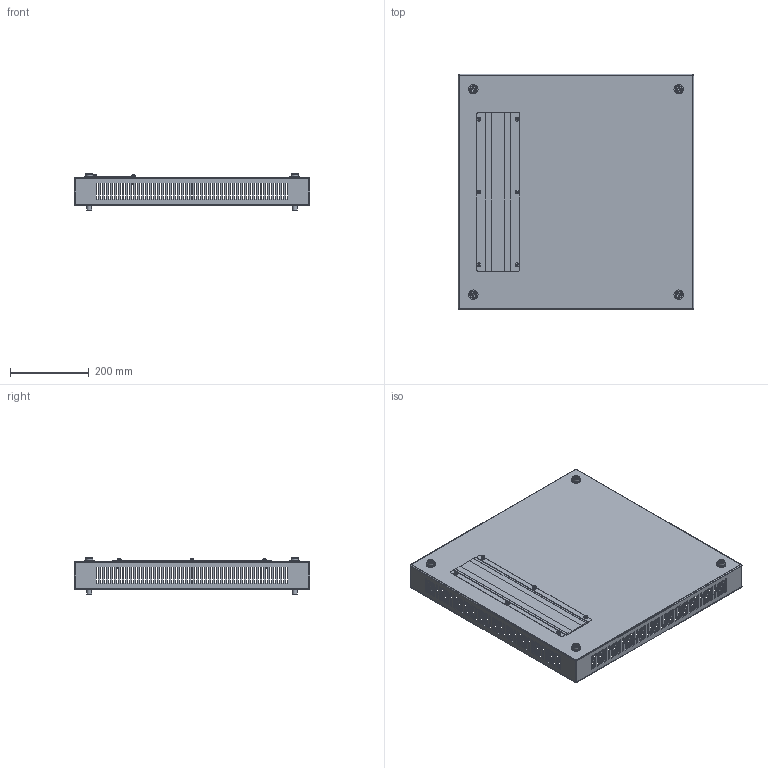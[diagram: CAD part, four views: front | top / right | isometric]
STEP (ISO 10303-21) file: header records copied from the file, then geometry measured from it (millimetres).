
FILE_DESCRIPTION(('STEP AP203'), '1');
FILE_NAME('3320 ÑÁ Ïîòîëî÷íàÿ ïàíåëü', '', ('UNSPECIFIED'), ('UNSPECIFIED'), 'C3D Converter', 'C3D Toolkit', '');
FILE_SCHEMA(('CONFIG_CONTROL_DESIGN'));
Length unit declared in the file: millimetre
Products named in the file (10): 3320.60.60.Щ СБ; 3321; 2329
Assembly tree (39 placements, depth 2):
  3320.60.60.Щ СБ
    3321
    2329  x4
    (unnamed)  x4
    (unnamed)  x4
    (unnamed)  x6
    (unnamed)  x6
    (unnamed)  x6
    (unnamed)  x6
    (unnamed)  x2
Bounding box: 597 x 597 x 93.5 mm (x, y, z)
Volume: 1001091.7 mm3; surface area: 1150667.6 mm2
Topology: 41 solids, 41 shells, 1688 faces, 4616 edges, 3052 vertices
Faces by surface type: plane 1224, cylinder 216, bspline 180, cone 26, sphere 22, torus 20
Full cylindrical faces by diameter (mm): 4.134 x6, 5 x6, 5.5 x6, 5.8 x6, 6 x4, 7 x6, 8.8 x6, 9.5 x6, 10 x6, 10.106 x4, 12 x8, 13.5 x4, 16 x4, 18 x4, 24 x4
Entity records: 41399 total; most frequent: CARTESIAN_POINT 11987, ORIENTED_EDGE 5876, DIRECTION 5198, EDGE_CURVE 2938, LINE 2720, VECTOR 2720, VERTEX_POINT 1952, EDGE_LOOP 1510
